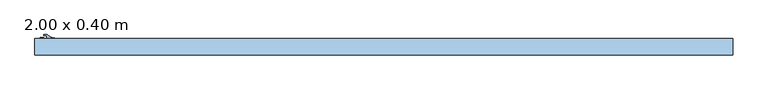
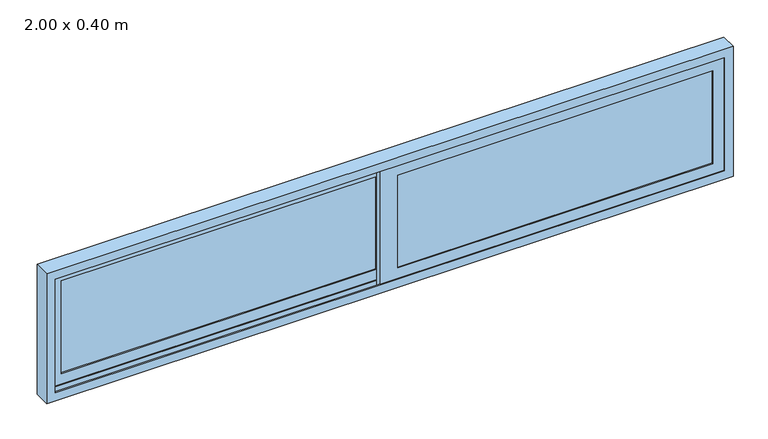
"""IFC4 building model written with IfcOpenShell, lengths in millimetres: window geometry, VENTANA CORREDIZA : 2.00 x 0.40 m."""

from ifc_helpers import new_model, si_unit, point, frame, frame_2d, origin, place, context, project, spatial, polyline, circle_curve, trimmed, segment, composite_curve, outline, extrude, faceted_brep, source, transform, mapped, element, save


def window_2_00_x_0_40_m_702c2130(model_context):
    return source(origin(), model_context, "Body", "SolidModel", [
        extrude(outline(composite_curve([segment(polyline([(-949.2272646, 20.574), (-974.6272646, 20.574), (-974.6272646, 24.7448943), (-973.7529788, 24.7448943)]), True, "CONTINUOUS"), segment(trimmed(circle_curve(frame_2d((-970.4187065, 27.4090781)), 4.2679324), [point((-973.7529788, 24.7448943))], [point((-966.6910659, 25.3306309))], True, "CARTESIAN"), True, "CONTINUOUS"), segment(trimmed(circle_curve(frame_2d((-975.2431169, 30.0990589)), 9.7916026), [point((-966.6910659, 25.3306309))], [point((-965.7349695, 32.4379931))], True, "CARTESIAN"), True, "CONTINUOUS"), segment(polyline([(-965.7349695, 32.4379931), (-974.6272646, 32.4379931), (-974.6272646, 34.7972753), (-964.7180432, 34.7972753)]), True, "CONTINUOUS"), segment(trimmed(circle_curve(frame_2d((-938.2823751, 63.5716105)), 39.0743767), [point((-964.7180432, 34.7972753))], [point((-942.85, 24.7651198))], True, "CARTESIAN"), True, "CONTINUOUS"), segment(polyline([(-942.85, 24.7651198), (-942.85, 20.574), (-949.2272646, 20.574)]), True, "CONTINUOUS")], self_intersect=False)), frame((0.0, 0.0, 1800.0), z_axis=(0.0, 0.0, 1.0), x_axis=(1.0, 0.0, 0.0)), (0.0, 0.0, 1.0), 100.0),
        extrude(outline(polyline([(-974.6272646, 20.574), (-984.6272646, 20.574), (-984.6272646, 26.5331774), (-974.6272646, 26.5331774), (-974.6272646, 20.574)])), frame((0.0, 0.0, 1800.0), z_axis=(0.0, 0.0, 1.0), x_axis=(1.0, 0.0, 0.0)), (0.0, 0.0, 1.0), 100.0),
        extrude(outline(polyline([(-942.85, 11.049), (-25.4, 11.049), (-25.4, 5.049), (-942.85, 5.049), (-942.85, 11.049)])), frame((0.0, 0.0, 1757.15), z_axis=(0.0, 0.0, 1.0), x_axis=(1.0, 0.0, 0.0)), (0.0, 0.0, 1.0), 285.7),
        extrude(outline(polyline([(2093.65, -993.65), (1706.35, -993.65), (1706.35, 25.4), (2093.65, 25.4), (2093.65, -993.65)]), holes=[polyline([(1757.15, -942.85), (2042.85, -942.85), (2042.85, -25.4), (1757.15, -25.4), (1757.15, -942.85)])]), frame((0.0, 1.524, 0.0), z_axis=(0.0, 1.0, 0.0), x_axis=(0.0, 0.0, 1.0)), (0.0, 0.0, 1.0), 19.05),
        extrude(outline(polyline([(25.4, -11.049), (942.85, -11.049), (942.85, -17.049), (25.4, -17.049), (25.4, -11.049)])), frame((0.0, 0.0, 1757.15), z_axis=(0.0, 0.0, 1.0), x_axis=(1.0, 0.0, 0.0)), (0.0, 0.0, 1.0), 285.7),
        extrude(outline(polyline([(2093.65, -25.4), (1706.35, -25.4), (1706.35, 993.65), (2093.65, 993.65), (2093.65, -25.4)]), holes=[polyline([(1757.15, 25.4), (2042.85, 25.4), (2042.85, 942.85), (1757.15, 942.85), (1757.15, 25.4)])]), frame((0.0, -20.574, 0.0), z_axis=(0.0, 1.0, 0.0), x_axis=(0.0, 0.0, 1.0)), (0.0, 0.0, 1.0), 19.05),
        faceted_brep([(-1000.0, 23.876, 2100.0), (-1000.0, 23.876, 1700.0), (-1000.0, -23.876, 1700.0), (-1000.0, -23.876, 2100.0), (-974.6, -23.876, 2074.6), (-974.6, -23.876, 1725.4), (-974.6, -20.574, 1725.4), (-974.6, -20.574, 2074.6), (-993.65, -20.574, 2093.65), (-993.65, -20.574, 1706.35), (-993.65, -1.524, 1706.35), (-993.65, -1.524, 2093.65), (-974.6, -1.524, 2074.6), (-974.6, -1.524, 1725.4), (-974.6, 1.524, 1725.4), (-974.6, 1.524, 2074.6), (-993.65, 1.524, 2093.65), (-993.65, 1.524, 1706.35), (-993.65, 20.574, 1706.35), (-993.65, 20.574, 2093.65), (-974.6, 20.574, 2074.6), (-974.6, 20.574, 1725.4), (-974.6, 23.876, 1725.4), (-974.6, 23.876, 2074.6), (1000.0, 23.876, 1700.0), (1000.0, -23.876, 1700.0), (974.6, -23.876, 1725.4), (974.6, -20.574, 1725.4), (993.65, -20.574, 1706.35), (993.65, -1.524, 1706.35), (974.6, -1.524, 1725.4), (974.6, 1.524, 1725.4), (993.65, 1.524, 1706.35), (993.65, 20.574, 1706.35), (974.6, 20.574, 1725.4), (974.6, 23.876, 1725.4), (1000.0, 23.876, 2100.0), (1000.0, -23.876, 2100.0), (974.6, -23.876, 2074.6), (974.6, -20.574, 2074.6), (993.65, -20.574, 2093.65), (993.65, -1.524, 2093.65), (974.6, -1.524, 2074.6), (974.6, 1.524, 2074.6), (993.65, 1.524, 2093.65), (993.65, 20.574, 2093.65), (974.6, 20.574, 2074.6), (974.6, 23.876, 2074.6)], [[[0, 1, 2, 3]], [[4, 5, 6, 7]], [[8, 9, 10, 11]], [[12, 13, 14, 15]], [[16, 17, 18, 19]], [[20, 21, 22, 23]], [[1, 24, 25, 2]], [[5, 26, 27, 6]], [[9, 28, 29, 10]], [[13, 30, 31, 14]], [[17, 32, 33, 18]], [[21, 34, 35, 22]], [[24, 36, 37, 25]], [[26, 38, 39, 27]], [[28, 40, 41, 29]], [[30, 42, 43, 31]], [[32, 44, 45, 33]], [[34, 46, 47, 35]], [[1, 0, 36, 24], [23, 22, 35, 47]], [[36, 0, 3, 37]], [[3, 2, 25, 37], [5, 4, 38, 26]], [[38, 4, 7, 39]], [[9, 8, 40, 28], [7, 6, 27, 39]], [[40, 8, 11, 41]], [[11, 10, 29, 41], [13, 12, 42, 30]], [[42, 12, 15, 43]], [[17, 16, 44, 32], [15, 14, 31, 43]], [[44, 16, 19, 45]], [[19, 18, 33, 45], [21, 20, 46, 34]], [[46, 20, 23, 47]]]),
    ])


if __name__ == "__main__":
    model = new_model("IFC4")
    model_context = context("Model", 3, world=origin())
    ifc_project = project(units=[si_unit("LENGTHUNIT", "METRE", prefix="MILLI")], contexts=[model_context])
    site = spatial("IfcSite", under=ifc_project)
    building = spatial("IfcBuilding", under=site)
    placement = place(None, origin())
    window_2_00_x_0_40_m_shape = window_2_00_x_0_40_m_702c2130(model_context)
    element("IfcWindow", 1, ObjectType="VENTANA CORREDIZA : 2.00 x 0.40 m", at=placement, inside=building, context=model_context, shape_type="MappedRepresentation", body=[
        mapped(window_2_00_x_0_40_m_shape, transform((0.0, 0.0, 0.0), x_axis=(1.0, 0.0, 0.0), y_axis=(0.0, 1.0, 0.0), z_axis=(0.0, 0.0, 1.0))),
    ])
    save(model, "model.ifc")
